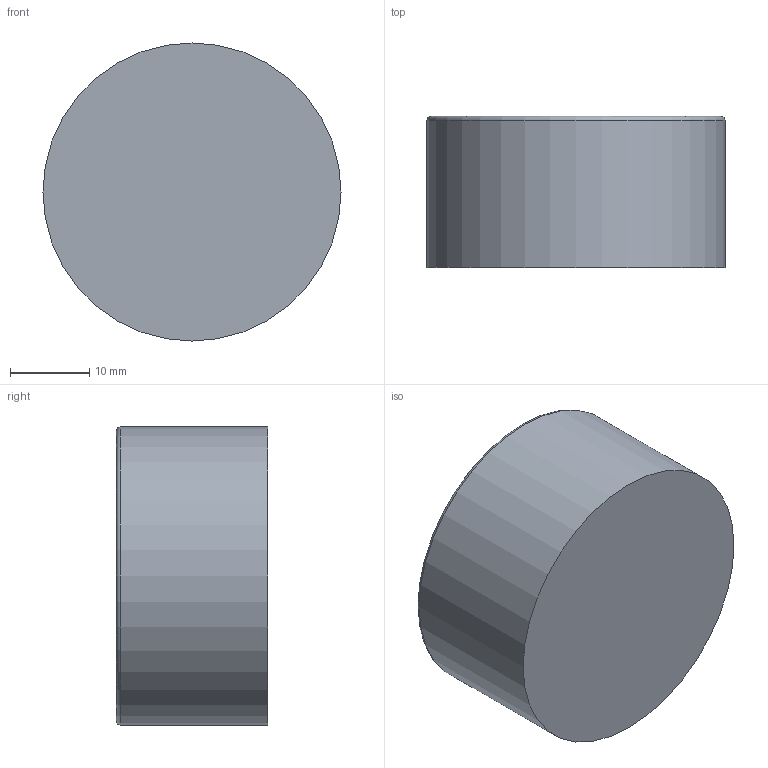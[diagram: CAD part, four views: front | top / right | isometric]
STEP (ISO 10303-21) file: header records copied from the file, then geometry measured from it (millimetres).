
FILE_DESCRIPTION(('FreeCAD Model'),'2;1');
FILE_NAME('Open CASCADE Shape Model','2023-05-06T18:44:57',('Author'),( ''),'Open CASCADE STEP processor 7.5','FreeCAD','Unknown');
FILE_SCHEMA(('AUTOMOTIVE_DESIGN { 1 0 10303 214 1 1 1 1 }'));
Length unit declared in the file: millimetre
Products named in the file (1): dyn 8om1wpart2
Bounding box: 37.5 x 19 x 37.5 mm (x, y, z)
Volume: 20379.9 mm3; surface area: 4489.9 mm2
Topology: 1 solids, 1 shells, 7 faces, 10 edges, 6 vertices
Faces by surface type: plane 3, cylinder 2, torus 2
Full cylindrical faces by diameter (mm): 27.5 x1, 37.5 x1
Entity records: 234 total; most frequent: DIRECTION 28, CARTESIAN_POINT 20, AXIS2_PLACEMENT_3D 14, EDGE_LOOP 12, ORIENTED_EDGE 12, FACE_OUTER_BOUND 11, UNCERTAINTY_MEASURE_WITH_UNIT 9, PRESENTATION_LAYER_ASSIGNMENT 8
